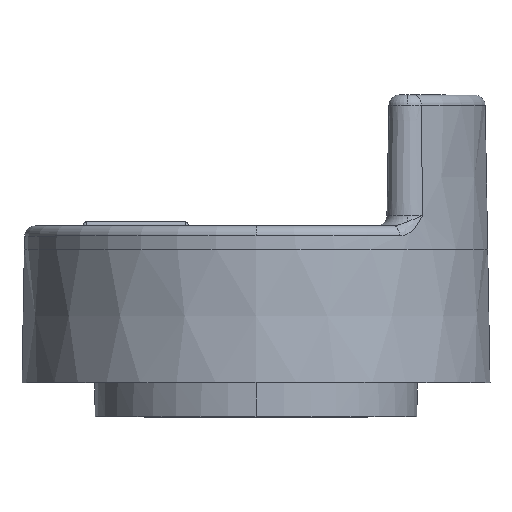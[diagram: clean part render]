
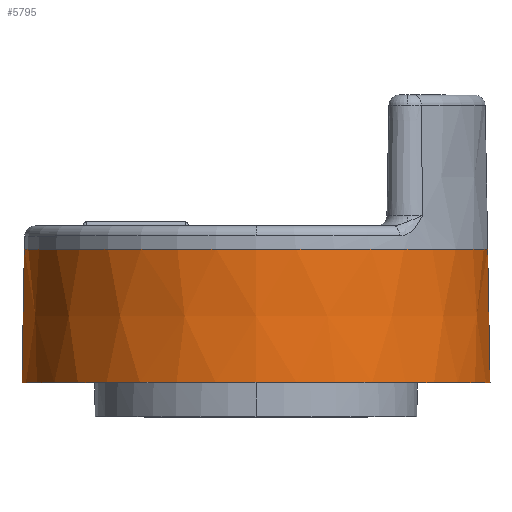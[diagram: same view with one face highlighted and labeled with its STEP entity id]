
A CAD part, top view. The second image highlights one B-rep face of the part: STEP entity #5795.
In plain terms, the highlighted conical face has half-angle 1 degrees and reference radius 44.75 mm.
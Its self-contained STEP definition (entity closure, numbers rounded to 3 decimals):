
#477 = EDGE_LOOP ( 'NONE', ( #2345, #7811, #8850, #4298 ) ) ;
#761 = DIRECTION ( 'NONE',  ( 0., 0., -1. ) ) ;
#861 = CARTESIAN_POINT ( 'NONE',  ( 0., 6.5, 0. ) ) ;
#1024 = AXIS2_PLACEMENT_3D ( 'NONE', #5926, #8716, #3872 ) ;
#1161 = DIRECTION ( 'NONE',  ( 0., -1., 0. ) ) ;
#1290 = CARTESIAN_POINT ( 'NONE',  ( -44.301, 32., 0.557 ) ) ;
#1310 = DIRECTION ( 'NONE',  ( -0.017, -1., 0. ) ) ;
#2048 = FACE_OUTER_BOUND ( 'NONE', #477, .T. ) ;
#2345 = ORIENTED_EDGE ( 'NONE', *, *, #6564, .F. ) ;
#2406 = VERTEX_POINT ( 'NONE', #2997 ) ;
#2460 = AXIS2_PLACEMENT_3D ( 'NONE', #8095, #1161, #5317 ) ;
#2521 = VERTEX_POINT ( 'NONE', #7916 ) ;
#2734 = AXIS2_PLACEMENT_3D ( 'NONE', #861, #5630, #761 ) ;
#2786 = LINE ( 'NONE', #6261, #4764 ) ;
#2997 = CARTESIAN_POINT ( 'NONE',  ( 44.301, 32., 0.557 ) ) ;
#3113 = VERTEX_POINT ( 'NONE', #1290 ) ;
#3362 = CIRCLE ( 'NONE', #2734, 44.75 ) ;
#3872 = DIRECTION ( 'NONE',  ( 0., 0., 1. ) ) ;
#4271 = EDGE_CURVE ( 'NONE', #2406, #3113, #5549, .T. ) ;
#4298 = ORIENTED_EDGE ( 'NONE', *, *, #4686, .F. ) ;
#4615 = EDGE_CURVE ( 'NONE', #3113, #2521, #7902, .T. ) ;
#4686 = EDGE_CURVE ( 'NONE', #7791, #2521, #3362, .T. ) ;
#4764 = VECTOR ( 'NONE', #6959, 1000. ) ;
#4878 = CONICAL_SURFACE ( 'NONE', #2460, 44.75, 0.017 ) ;
#5317 = DIRECTION ( 'NONE',  ( 0., 0., -1. ) ) ;
#5549 = CIRCLE ( 'NONE', #1024, 44.305 ) ;
#5630 = DIRECTION ( 'NONE',  ( 0., -1., 0. ) ) ;
#5795 = ADVANCED_FACE ( 'NONE', ( #2048 ), #4878, .T. ) ;
#5926 = CARTESIAN_POINT ( 'NONE',  ( 0., 32., 0. ) ) ;
#6261 = CARTESIAN_POINT ( 'NONE',  ( 44.746, 6.5, 0.563 ) ) ;
#6564 = EDGE_CURVE ( 'NONE', #2406, #7791, #2786, .T. ) ;
#6951 = CARTESIAN_POINT ( 'NONE',  ( -44.746, 6.5, 0.563 ) ) ;
#6959 = DIRECTION ( 'NONE',  ( 0.017, -1., 0. ) ) ;
#7515 = CARTESIAN_POINT ( 'NONE',  ( 44.746, 6.5, 0.563 ) ) ;
#7791 = VERTEX_POINT ( 'NONE', #7515 ) ;
#7811 = ORIENTED_EDGE ( 'NONE', *, *, #4271, .T. ) ;
#7902 = LINE ( 'NONE', #6951, #8122 ) ;
#7916 = CARTESIAN_POINT ( 'NONE',  ( -44.746, 6.5, 0.563 ) ) ;
#8095 = CARTESIAN_POINT ( 'NONE',  ( 0., 6.5, 0. ) ) ;
#8122 = VECTOR ( 'NONE', #1310, 1000. ) ;
#8716 = DIRECTION ( 'NONE',  ( 0., -1., 0. ) ) ;
#8850 = ORIENTED_EDGE ( 'NONE', *, *, #4615, .T. ) ;
